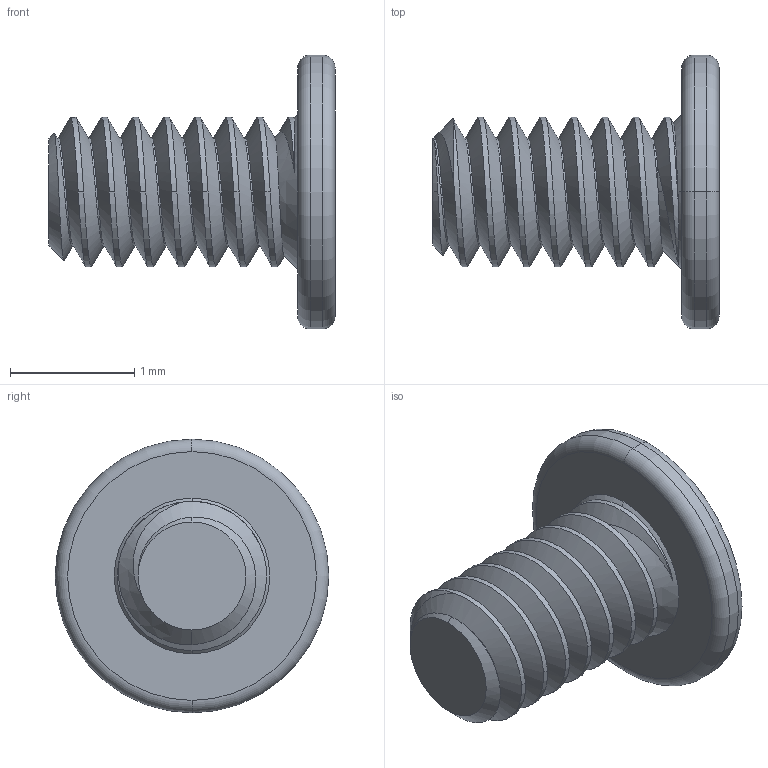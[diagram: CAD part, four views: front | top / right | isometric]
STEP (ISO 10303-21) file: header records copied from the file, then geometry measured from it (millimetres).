
FILE_DESCRIPTION (( 'STEP AP203' ), '1' );
FILE_NAME ('M12-20-M-N-UT-USMICROSCREW.STEP', '2014-12-29T23:04:34', ( '' ), ( '' ), 'SwSTEP 2.0', 'SolidWorks 2014', '' );
FILE_SCHEMA (( 'CONFIG_CONTROL_DESIGN' ));
Length unit declared in the file: millimetre
Products named in the file (1): M12-20-M-N-UT-USMICROSCREW
Bounding box: 2.3 x 2.2 x 2.2 mm (x, y, z)
Volume: 2.8 mm3; surface area: 20.3 mm2
Topology: 1 solids, 1 shells, 71 faces, 187 edges, 116 vertices
Faces by surface type: cylinder 39, plane 16, cone 6, bspline 6, torus 4
Entity records: 3389 total; most frequent: CARTESIAN_POINT 1859, ORIENTED_EDGE 366, DIRECTION 240, EDGE_CURVE 183, VERTEX_POINT 116, AXIS2_PLACEMENT_3D 87, EDGE_LOOP 73, ADVANCED_FACE 71
